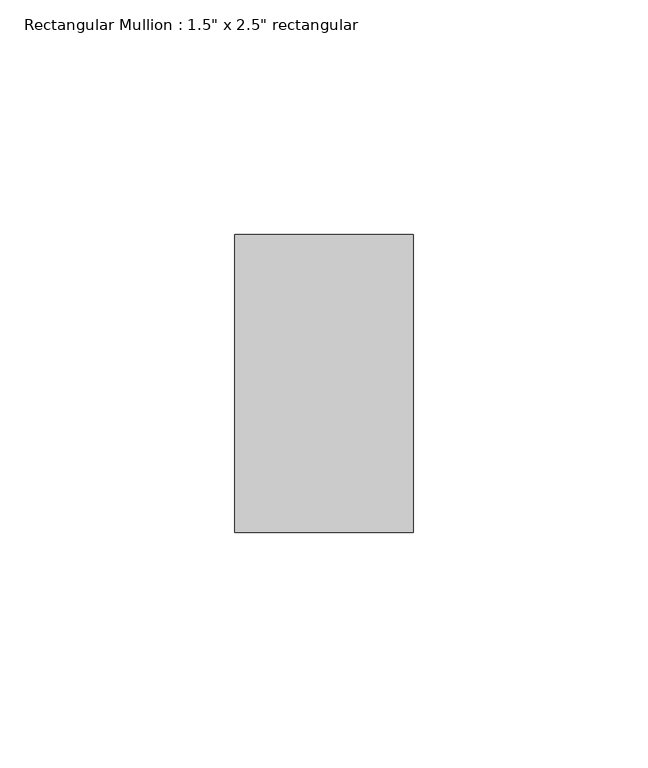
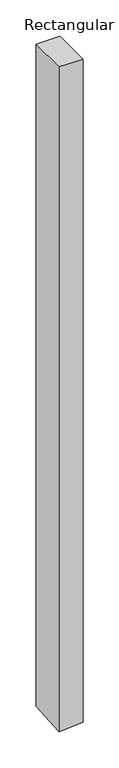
"""IFC4 building model written with IfcOpenShell, lengths in millimetres: member geometry."""

from ifc_helpers import new_model, si_unit, origin, place, context, project, spatial, faceted_brep, source, transform, mapped, element, save


def member_1aaaed21(model_context):
    return source(origin(), model_context, "Body", "Brep", [
        faceted_brep([(0.0, 31.75, 0.0), (-38.1, 31.75, 0.0), (-38.1, -31.75, 0.0), (0.0, -31.75, 0.0), (0.0, 31.75, -1112.6538048), (-38.1, 31.75, -1115.5020069), (-38.1, -31.75, -1120.2776931), (0.0, -31.75, -1117.429491)], [[[0, 1, 2, 3]], [[1, 0, 4, 5]], [[2, 1, 5, 6]], [[3, 2, 6, 7]], [[0, 3, 7, 4]], [[4, 7, 6, 5]]]),
    ])


if __name__ == "__main__":
    model = new_model("IFC4")
    model_context = context("Model", 3, world=origin())
    ifc_project = project(units=[si_unit("LENGTHUNIT", "METRE", prefix="MILLI")], contexts=[model_context])
    site = spatial("IfcSite", under=ifc_project)
    building = spatial("IfcBuilding", under=site)
    placement = place(None, origin())
    member_shape = member_1aaaed21(model_context)
    element("IfcMember", 1, ObjectType="Rectangular Mullion : 1.5\" x 2.5\" rectangular", at=placement, inside=building, context=model_context, shape_type="MappedRepresentation", body=[
        mapped(member_shape, transform((0.0, 0.0, 0.0), x_axis=(1.0, 0.0, 0.0), y_axis=(0.0, 1.0, 0.0), z_axis=(0.0, 0.0, 1.0))),
    ])
    save(model, "model.ifc")
